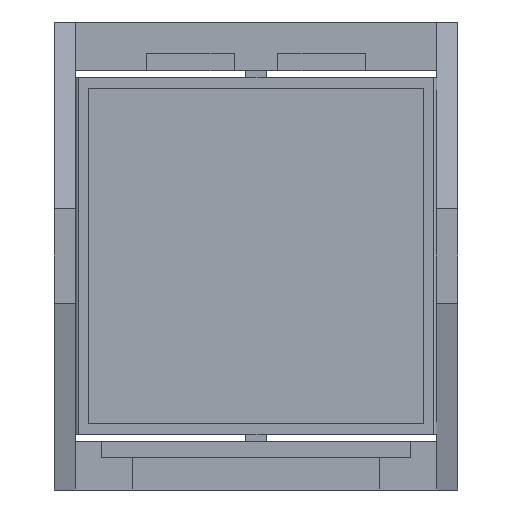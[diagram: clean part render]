
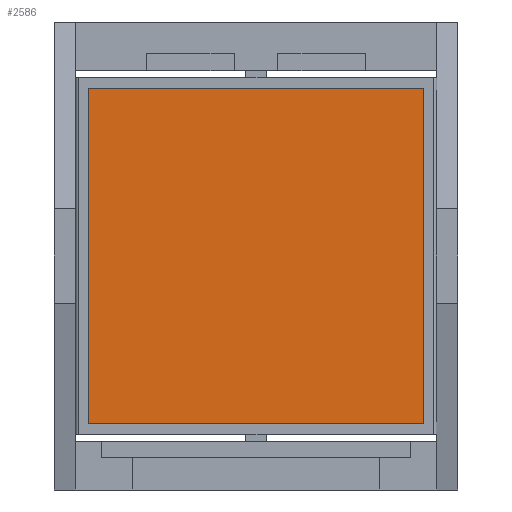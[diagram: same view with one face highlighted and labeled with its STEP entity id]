
A CAD part, front view. The second image highlights one B-rep face of the part: STEP entity #2586.
In plain terms, the highlighted planar face has unit normal (0, -1, 0).
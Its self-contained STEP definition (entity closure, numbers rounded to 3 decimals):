
#5 = CARTESIAN_POINT ( 'NONE',  ( 15.228, -3.744, -10.991 ) ) ;
#534 = LINE ( 'NONE', #1012, #3705 ) ;
#574 = DIRECTION ( 'NONE',  ( 0., 0., -1. ) ) ;
#719 = VECTOR ( 'NONE', #2464, 1000. ) ;
#776 = EDGE_CURVE ( 'NONE', #3889, #2407, #534, .T. ) ;
#969 = ORIENTED_EDGE ( 'NONE', *, *, #3329, .F. ) ;
#983 = DIRECTION ( 'NONE',  ( 0., 1., 0. ) ) ;
#1012 = CARTESIAN_POINT ( 'NONE',  ( -7.772, -3.744, -10.991 ) ) ;
#1313 = PLANE ( 'NONE',  #2644 ) ;
#1652 = CARTESIAN_POINT ( 'NONE',  ( -7.772, -3.744, 12.009 ) ) ;
#1664 = VERTEX_POINT ( 'NONE', #1652 ) ;
#2055 = CARTESIAN_POINT ( 'NONE',  ( -7.772, -3.744, 12.009 ) ) ;
#2199 = DIRECTION ( 'NONE',  ( -1., 0., 0. ) ) ;
#2355 = ORIENTED_EDGE ( 'NONE', *, *, #6962, .F. ) ;
#2407 = VERTEX_POINT ( 'NONE', #5992 ) ;
#2464 = DIRECTION ( 'NONE',  ( 0., 0., 1. ) ) ;
#2472 = ORIENTED_EDGE ( 'NONE', *, *, #776, .F. ) ;
#2491 = DIRECTION ( 'NONE',  ( 0., 0., 1. ) ) ;
#2586 = ADVANCED_FACE ( 'NONE', ( #6382 ), #1313, .F. ) ;
#2607 = VERTEX_POINT ( 'NONE', #6530 ) ;
#2644 = AXIS2_PLACEMENT_3D ( 'NONE', #2055, #983, #2491 ) ;
#2791 = VECTOR ( 'NONE', #4821, 1000. ) ;
#2905 = VECTOR ( 'NONE', #574, 1000. ) ;
#3233 = ORIENTED_EDGE ( 'NONE', *, *, #4813, .F. ) ;
#3329 = EDGE_CURVE ( 'NONE', #1664, #2607, #6388, .T. ) ;
#3705 = VECTOR ( 'NONE', #2199, 1000. ) ;
#3889 = VERTEX_POINT ( 'NONE', #4011 ) ;
#4011 = CARTESIAN_POINT ( 'NONE',  ( 15.228, -3.744, -10.991 ) ) ;
#4673 = CARTESIAN_POINT ( 'NONE',  ( -7.772, -3.744, 12.009 ) ) ;
#4813 = EDGE_CURVE ( 'NONE', #2607, #3889, #5015, .T. ) ;
#4821 = DIRECTION ( 'NONE',  ( 1., 0., 0. ) ) ;
#5015 = LINE ( 'NONE', #5, #2905 ) ;
#5445 = EDGE_LOOP ( 'NONE', ( #2355, #2472, #3233, #969 ) ) ;
#5940 = LINE ( 'NONE', #6019, #719 ) ;
#5992 = CARTESIAN_POINT ( 'NONE',  ( -7.772, -3.744, -10.991 ) ) ;
#6019 = CARTESIAN_POINT ( 'NONE',  ( -7.772, -3.744, -10.991 ) ) ;
#6382 = FACE_OUTER_BOUND ( 'NONE', #5445, .T. ) ;
#6388 = LINE ( 'NONE', #4673, #2791 ) ;
#6530 = CARTESIAN_POINT ( 'NONE',  ( 15.228, -3.744, 12.009 ) ) ;
#6962 = EDGE_CURVE ( 'NONE', #2407, #1664, #5940, .T. ) ;
